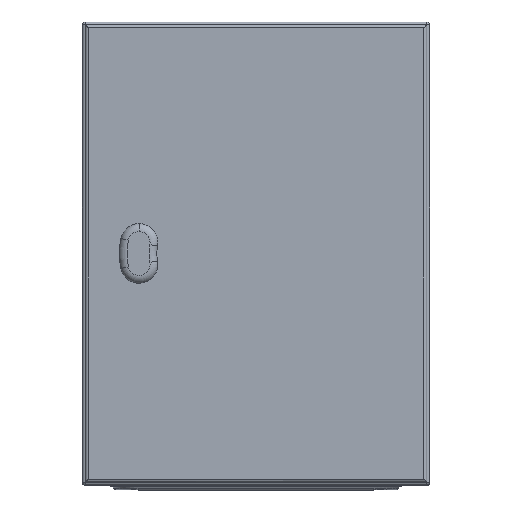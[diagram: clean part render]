
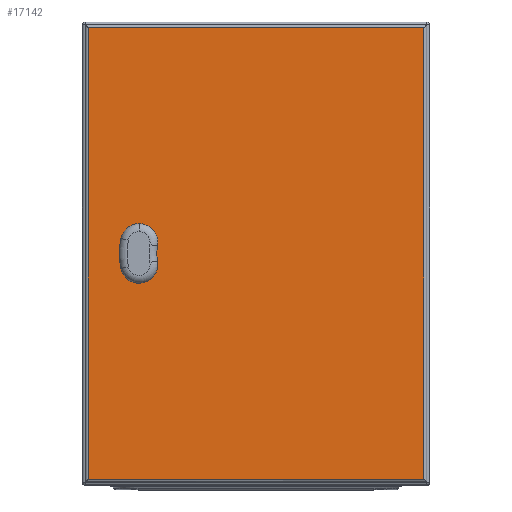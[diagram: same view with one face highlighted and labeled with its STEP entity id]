
A CAD part, top view. The second image highlights one B-rep face of the part: STEP entity #17142.
In plain terms, the highlighted planar face has unit normal (0, 0, 1) as drawn and (0, 0, -1) by its records, which use the part's own axes.
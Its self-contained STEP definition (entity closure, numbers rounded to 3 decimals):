
#125 = VERTEX_POINT ( 'NONE', #10447 ) ;
#171 = AXIS2_PLACEMENT_3D ( 'NONE', #13096, #7820, #14439 ) ;
#322 = DIRECTION ( 'NONE',  ( 1., 0., 0. ) ) ;
#353 = VERTEX_POINT ( 'NONE', #3469 ) ;
#611 = VERTEX_POINT ( 'NONE', #14408 ) ;
#671 = ORIENTED_EDGE ( 'NONE', *, *, #8030, .F. ) ;
#739 = VECTOR ( 'NONE', #13990, 1000. ) ;
#1357 = ORIENTED_EDGE ( 'NONE', *, *, #20614, .F. ) ;
#1369 = ORIENTED_EDGE ( 'NONE', *, *, #15665, .F. ) ;
#1464 = ORIENTED_EDGE ( 'NONE', *, *, #10442, .T. ) ;
#1534 = CARTESIAN_POINT ( 'NONE',  ( 90.95, -5.056, 0. ) ) ;
#2368 = EDGE_CURVE ( 'NONE', #20418, #14146, #3429, .T. ) ;
#2607 = EDGE_CURVE ( 'NONE', #611, #4402, #2971, .T. ) ;
#2614 = CARTESIAN_POINT ( 'NONE',  ( 106.056, -10.05, 0. ) ) ;
#2673 = CARTESIAN_POINT ( 'NONE',  ( 145., -197.5, 0. ) ) ;
#2962 = CARTESIAN_POINT ( 'NONE',  ( -145., 195., 0. ) ) ;
#2971 = LINE ( 'NONE', #15984, #13685 ) ;
#3156 = DIRECTION ( 'NONE',  ( 0., 1., 0. ) ) ;
#3183 = CARTESIAN_POINT ( 'NONE',  ( 95.944, 10.05, 0. ) ) ;
#3429 = LINE ( 'NONE', #6992, #18137 ) ;
#3469 = CARTESIAN_POINT ( 'NONE',  ( 90.95, -5.056, 0. ) ) ;
#3532 = ORIENTED_EDGE ( 'NONE', *, *, #16948, .T. ) ;
#3577 = AXIS2_PLACEMENT_3D ( 'NONE', #12836, #17598, #15987 ) ;
#3689 = VECTOR ( 'NONE', #9278, 1000. ) ;
#3993 = LINE ( 'NONE', #18927, #18463 ) ;
#4102 = ORIENTED_EDGE ( 'NONE', *, *, #18032, .T. ) ;
#4402 = VERTEX_POINT ( 'NONE', #9220 ) ;
#4583 = LINE ( 'NONE', #1534, #11266 ) ;
#6992 = CARTESIAN_POINT ( 'NONE',  ( -145., 197.5, 0. ) ) ;
#7001 = CARTESIAN_POINT ( 'NONE',  ( 95.944, -10.05, 0. ) ) ;
#7045 = DIRECTION ( 'NONE',  ( 0., 0., -1. ) ) ;
#7096 = FACE_BOUND ( 'NONE', #20394, .T. ) ;
#7382 = LINE ( 'NONE', #2614, #739 ) ;
#7410 = CARTESIAN_POINT ( 'NONE',  ( 147.5, 197.5, 0. ) ) ;
#7789 = DIRECTION ( 'NONE',  ( 1., 0., 0. ) ) ;
#7820 = DIRECTION ( 'NONE',  ( 0., 0., -1. ) ) ;
#8030 = EDGE_CURVE ( 'NONE', #12314, #353, #9519, .T. ) ;
#8427 = ORIENTED_EDGE ( 'NONE', *, *, #18923, .F. ) ;
#8910 = AXIS2_PLACEMENT_3D ( 'NONE', #15400, #7045, #322 ) ;
#8938 = DIRECTION ( 'NONE',  ( 0., 0., -1. ) ) ;
#9220 = CARTESIAN_POINT ( 'NONE',  ( 111.05, -5.056, 0. ) ) ;
#9278 = DIRECTION ( 'NONE',  ( 0., -1., 0. ) ) ;
#9519 = CIRCLE ( 'NONE', #171, 11.25 ) ;
#9958 = CIRCLE ( 'NONE', #8910, 11.25 ) ;
#10258 = DIRECTION ( 'NONE',  ( 0., 1., 0. ) ) ;
#10442 = EDGE_CURVE ( 'NONE', #14146, #20901, #10973, .T. ) ;
#10447 = CARTESIAN_POINT ( 'NONE',  ( 106.056, 10.05, 0. ) ) ;
#10453 = CARTESIAN_POINT ( 'NONE',  ( 106.056, -10.05, 0. ) ) ;
#10598 = DIRECTION ( 'NONE',  ( -1., 0., 0. ) ) ;
#10973 = LINE ( 'NONE', #21247, #15500 ) ;
#11180 = DIRECTION ( 'NONE',  ( 0., 0., -1. ) ) ;
#11266 = VECTOR ( 'NONE', #3156, 1000. ) ;
#11273 = VERTEX_POINT ( 'NONE', #3183 ) ;
#11455 = VERTEX_POINT ( 'NONE', #20270 ) ;
#12025 = ORIENTED_EDGE ( 'NONE', *, *, #2368, .T. ) ;
#12314 = VERTEX_POINT ( 'NONE', #7001 ) ;
#12583 = DIRECTION ( 'NONE',  ( 1., 0., 0. ) ) ;
#12668 = CARTESIAN_POINT ( 'NONE',  ( 106.056, 10.05, 0. ) ) ;
#12836 = CARTESIAN_POINT ( 'NONE',  ( 101., 0., 0. ) ) ;
#12917 = CIRCLE ( 'NONE', #3577, 11.25 ) ;
#12921 = CIRCLE ( 'NONE', #20526, 11.25 ) ;
#12978 = ORIENTED_EDGE ( 'NONE', *, *, #14679, .F. ) ;
#13096 = CARTESIAN_POINT ( 'NONE',  ( 101., 0., 0. ) ) ;
#13567 = VECTOR ( 'NONE', #7789, 1000. ) ;
#13685 = VECTOR ( 'NONE', #14670, 1000. ) ;
#13990 = DIRECTION ( 'NONE',  ( -1., 0., 0. ) ) ;
#14083 = LINE ( 'NONE', #12668, #13567 ) ;
#14112 = CARTESIAN_POINT ( 'NONE',  ( 101., 0., 0. ) ) ;
#14146 = VERTEX_POINT ( 'NONE', #2962 ) ;
#14408 = CARTESIAN_POINT ( 'NONE',  ( 111.05, 5.056, 0. ) ) ;
#14439 = DIRECTION ( 'NONE',  ( -1., 0., 0. ) ) ;
#14670 = DIRECTION ( 'NONE',  ( 0., -1., 0. ) ) ;
#14679 = EDGE_CURVE ( 'NONE', #15295, #12314, #7382, .T. ) ;
#14865 = CARTESIAN_POINT ( 'NONE',  ( -145., -195., 0. ) ) ;
#15047 = EDGE_CURVE ( 'NONE', #11273, #125, #14083, .T. ) ;
#15234 = DIRECTION ( 'NONE',  ( -1., 0., 0. ) ) ;
#15295 = VERTEX_POINT ( 'NONE', #10453 ) ;
#15400 = CARTESIAN_POINT ( 'NONE',  ( 101., 0., 0. ) ) ;
#15500 = VECTOR ( 'NONE', #12583, 1000. ) ;
#15556 = FACE_OUTER_BOUND ( 'NONE', #20655, .T. ) ;
#15665 = EDGE_CURVE ( 'NONE', #353, #11455, #4583, .T. ) ;
#15984 = CARTESIAN_POINT ( 'NONE',  ( 111.05, -5.056, 0. ) ) ;
#15987 = DIRECTION ( 'NONE',  ( -1., 0., 0. ) ) ;
#16450 = ORIENTED_EDGE ( 'NONE', *, *, #15047, .F. ) ;
#16948 = EDGE_CURVE ( 'NONE', #20901, #17656, #17509, .T. ) ;
#17142 = ADVANCED_FACE ( 'NONE', ( #7096, #15556 ), #20515, .T. ) ;
#17509 = LINE ( 'NONE', #2673, #3689 ) ;
#17598 = DIRECTION ( 'NONE',  ( 0., 0., -1. ) ) ;
#17656 = VERTEX_POINT ( 'NONE', #19592 ) ;
#17969 = CARTESIAN_POINT ( 'NONE',  ( 145., 195., 0. ) ) ;
#18032 = EDGE_CURVE ( 'NONE', #17656, #20418, #3993, .T. ) ;
#18137 = VECTOR ( 'NONE', #10258, 1000. ) ;
#18463 = VECTOR ( 'NONE', #10598, 1000. ) ;
#18923 = EDGE_CURVE ( 'NONE', #11455, #11273, #12921, .T. ) ;
#18927 = CARTESIAN_POINT ( 'NONE',  ( -147.5, -195., 0. ) ) ;
#19229 = AXIS2_PLACEMENT_3D ( 'NONE', #7410, #8938, #15234 ) ;
#19592 = CARTESIAN_POINT ( 'NONE',  ( 145., -195., 0. ) ) ;
#19639 = ORIENTED_EDGE ( 'NONE', *, *, #2607, .F. ) ;
#20056 = ORIENTED_EDGE ( 'NONE', *, *, #21144, .F. ) ;
#20270 = CARTESIAN_POINT ( 'NONE',  ( 90.95, 5.056, 0. ) ) ;
#20394 = EDGE_LOOP ( 'NONE', ( #671, #12978, #20056, #19639, #1357, #16450, #8427, #1369 ) ) ;
#20418 = VERTEX_POINT ( 'NONE', #14865 ) ;
#20515 = PLANE ( 'NONE',  #19229 ) ;
#20526 = AXIS2_PLACEMENT_3D ( 'NONE', #14112, #11180, #20810 ) ;
#20614 = EDGE_CURVE ( 'NONE', #125, #611, #9958, .T. ) ;
#20655 = EDGE_LOOP ( 'NONE', ( #12025, #1464, #3532, #4102 ) ) ;
#20810 = DIRECTION ( 'NONE',  ( 1., 0., 0. ) ) ;
#20901 = VERTEX_POINT ( 'NONE', #17969 ) ;
#21144 = EDGE_CURVE ( 'NONE', #4402, #15295, #12917, .T. ) ;
#21247 = CARTESIAN_POINT ( 'NONE',  ( 147.5, 195., 0. ) ) ;
